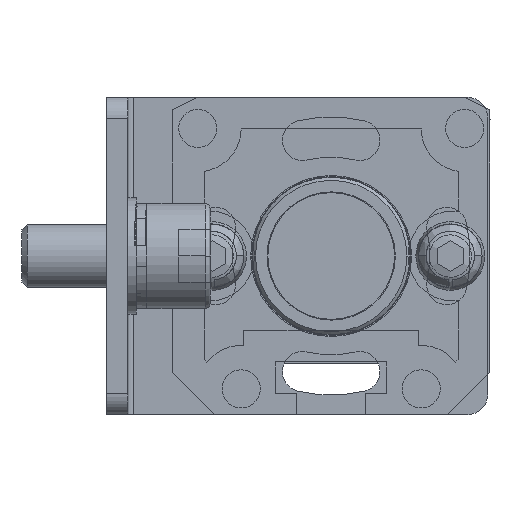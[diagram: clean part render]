
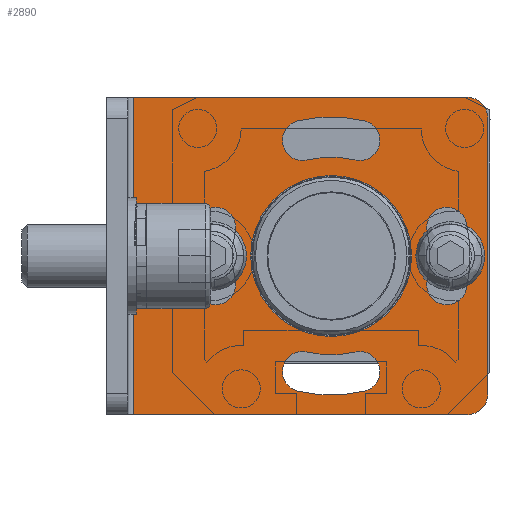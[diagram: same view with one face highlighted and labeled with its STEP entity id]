
A CAD part, front view. The second image highlights one B-rep face of the part: STEP entity #2890.
In plain terms, the highlighted planar face has unit normal (0, -1, 0).
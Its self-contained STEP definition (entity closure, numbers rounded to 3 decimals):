
#692=LINE('',#40684,#1452);
#697=LINE('',#40696,#1457);
#703=LINE('',#40712,#1463);
#707=LINE('',#40736,#1467);
#1452=VECTOR('',#13263,1.);
#1457=VECTOR('',#13272,1.);
#1463=VECTOR('',#13290,1.);
#1467=VECTOR('',#13320,1.);
#1962=PLANE('',#11082);
#2299=FACE_BOUND('',#4309,.T.);
#2300=FACE_BOUND('',#4310,.T.);
#2301=FACE_BOUND('',#4311,.T.);
#2302=FACE_BOUND('',#4312,.T.);
#2303=FACE_BOUND('',#4313,.T.);
#2304=FACE_BOUND('',#4314,.T.);
#2890=ADVANCED_FACE('',(#2299,#2300,#2301,#2302,#2303,#2304),#1962,.T.);
#4309=EDGE_LOOP('',(#6781,#6782,#6783,#6784));
#4310=EDGE_LOOP('',(#6785,#6786,#6787,#6788));
#4311=EDGE_LOOP('',(#6789,#6790,#6791,#6792));
#4312=EDGE_LOOP('',(#6793));
#4313=EDGE_LOOP('',(#6794,#6795,#6796,#6797));
#4314=EDGE_LOOP('',(#6798,#6799,#6800,#6801,#6802,#6803));
#6781=ORIENTED_EDGE('',*,*,#9603,.T.);
#6782=ORIENTED_EDGE('',*,*,#9604,.T.);
#6783=ORIENTED_EDGE('',*,*,#9542,.T.);
#6784=ORIENTED_EDGE('',*,*,#9605,.T.);
#6785=ORIENTED_EDGE('',*,*,#9606,.T.);
#6786=ORIENTED_EDGE('',*,*,#9546,.T.);
#6787=ORIENTED_EDGE('',*,*,#9607,.T.);
#6788=ORIENTED_EDGE('',*,*,#9550,.T.);
#6789=ORIENTED_EDGE('',*,*,#9608,.T.);
#6790=ORIENTED_EDGE('',*,*,#9554,.T.);
#6791=ORIENTED_EDGE('',*,*,#9609,.T.);
#6792=ORIENTED_EDGE('',*,*,#9558,.T.);
#6793=ORIENTED_EDGE('',*,*,#9563,.T.);
#6794=ORIENTED_EDGE('',*,*,#9610,.T.);
#6795=ORIENTED_EDGE('',*,*,#9611,.T.);
#6796=ORIENTED_EDGE('',*,*,#9612,.T.);
#6797=ORIENTED_EDGE('',*,*,#9564,.T.);
#6798=ORIENTED_EDGE('',*,*,#9613,.T.);
#6799=ORIENTED_EDGE('',*,*,#9614,.T.);
#6800=ORIENTED_EDGE('',*,*,#9598,.F.);
#6801=ORIENTED_EDGE('',*,*,#9584,.T.);
#6802=ORIENTED_EDGE('',*,*,#9590,.F.);
#6803=ORIENTED_EDGE('',*,*,#9615,.T.);
#8262=VERTEX_POINT('',#40594);
#8263=VERTEX_POINT('',#40595);
#8266=VERTEX_POINT('',#40603);
#8267=VERTEX_POINT('',#40604);
#8270=VERTEX_POINT('',#40612);
#8271=VERTEX_POINT('',#40613);
#8274=VERTEX_POINT('',#40621);
#8275=VERTEX_POINT('',#40622);
#8278=VERTEX_POINT('',#40630);
#8279=VERTEX_POINT('',#40631);
#8283=VERTEX_POINT('',#40641);
#8284=VERTEX_POINT('',#40644);
#8285=VERTEX_POINT('',#40645);
#8298=VERTEX_POINT('',#40681);
#8299=VERTEX_POINT('',#40683);
#8304=VERTEX_POINT('',#40695);
#8309=VERTEX_POINT('',#40713);
#8312=VERTEX_POINT('',#40723);
#8313=VERTEX_POINT('',#40724);
#8314=VERTEX_POINT('',#40732);
#8315=VERTEX_POINT('',#40734);
#8316=VERTEX_POINT('',#40737);
#8317=VERTEX_POINT('',#40738);
#9542=EDGE_CURVE('',#8262,#8263,#10244,.T.);
#9546=EDGE_CURVE('',#8266,#8267,#10246,.T.);
#9550=EDGE_CURVE('',#8270,#8271,#10248,.T.);
#9554=EDGE_CURVE('',#8274,#8275,#10250,.T.);
#9558=EDGE_CURVE('',#8278,#8279,#10252,.T.);
#9563=EDGE_CURVE('',#8283,#8283,#10255,.T.);
#9564=EDGE_CURVE('',#8284,#8285,#10256,.T.);
#9584=EDGE_CURVE('',#8298,#8299,#692,.T.);
#9590=EDGE_CURVE('',#8304,#8299,#697,.T.);
#9598=EDGE_CURVE('',#8298,#8309,#703,.T.);
#9603=EDGE_CURVE('',#8312,#8313,#10268,.T.);
#9604=EDGE_CURVE('',#8313,#8262,#10269,.T.);
#9605=EDGE_CURVE('',#8263,#8312,#10270,.T.);
#9606=EDGE_CURVE('',#8271,#8266,#10271,.T.);
#9607=EDGE_CURVE('',#8267,#8270,#10272,.T.);
#9608=EDGE_CURVE('',#8279,#8274,#10273,.T.);
#9609=EDGE_CURVE('',#8275,#8278,#10274,.T.);
#9610=EDGE_CURVE('',#8285,#8314,#10275,.T.);
#9611=EDGE_CURVE('',#8314,#8315,#10276,.T.);
#9612=EDGE_CURVE('',#8315,#8284,#10277,.T.);
#9613=EDGE_CURVE('',#8316,#8317,#707,.T.);
#9614=EDGE_CURVE('',#8317,#8309,#10278,.T.);
#9615=EDGE_CURVE('',#8304,#8316,#10279,.T.);
#10244=CIRCLE('',#11028,1.9);
#10246=CIRCLE('',#11031,13.15);
#10248=CIRCLE('',#11034,9.35);
#10250=CIRCLE('',#11037,1.9);
#10252=CIRCLE('',#11040,1.9);
#10255=CIRCLE('',#11044,7.6);
#10256=CIRCLE('',#11046,1.9);
#10268=CIRCLE('',#11070,1.9);
#10269=CIRCLE('',#11071,13.15);
#10270=CIRCLE('',#11072,9.35);
#10271=CIRCLE('',#11073,1.9);
#10272=CIRCLE('',#11074,1.9);
#10273=CIRCLE('',#11075,13.15);
#10274=CIRCLE('',#11076,9.35);
#10275=CIRCLE('',#11077,13.15);
#10276=CIRCLE('',#11078,1.9);
#10277=CIRCLE('',#11079,9.35);
#10278=CIRCLE('',#11080,2.);
#10279=CIRCLE('',#11081,2.);
#11028=AXIS2_PLACEMENT_3D('',#40593,#13179,#13180);
#11031=AXIS2_PLACEMENT_3D('',#40602,#13187,#13188);
#11034=AXIS2_PLACEMENT_3D('',#40611,#13195,#13196);
#11037=AXIS2_PLACEMENT_3D('',#40620,#13203,#13204);
#11040=AXIS2_PLACEMENT_3D('',#40629,#13211,#13212);
#11044=AXIS2_PLACEMENT_3D('',#40640,#13221,#13222);
#11046=AXIS2_PLACEMENT_3D('',#40643,#13225,#13226);
#11070=AXIS2_PLACEMENT_3D('',#40722,#13300,#13301);
#11071=AXIS2_PLACEMENT_3D('',#40725,#13302,#13303);
#11072=AXIS2_PLACEMENT_3D('',#40726,#13304,#13305);
#11073=AXIS2_PLACEMENT_3D('',#40727,#13306,#13307);
#11074=AXIS2_PLACEMENT_3D('',#40728,#13308,#13309);
#11075=AXIS2_PLACEMENT_3D('',#40729,#13310,#13311);
#11076=AXIS2_PLACEMENT_3D('',#40730,#13312,#13313);
#11077=AXIS2_PLACEMENT_3D('',#40731,#13314,#13315);
#11078=AXIS2_PLACEMENT_3D('',#40733,#13316,#13317);
#11079=AXIS2_PLACEMENT_3D('',#40735,#13318,#13319);
#11080=AXIS2_PLACEMENT_3D('',#40739,#13321,#13322);
#11081=AXIS2_PLACEMENT_3D('',#40740,#13323,#13324);
#11082=AXIS2_PLACEMENT_3D('',#40741,#13325,#13326);
#13179=DIRECTION('',(0.,1.,0.));
#13180=DIRECTION('',(0.,0.,1.));
#13187=DIRECTION('',(0.,1.,0.));
#13188=DIRECTION('',(0.,0.,1.));
#13195=DIRECTION('',(0.,-1.,0.));
#13196=DIRECTION('',(0.,0.,1.));
#13203=DIRECTION('',(0.,1.,0.));
#13204=DIRECTION('',(0.,0.,1.));
#13211=DIRECTION('',(0.,1.,0.));
#13212=DIRECTION('',(0.,0.,1.));
#13221=DIRECTION('',(0.,1.,0.));
#13222=DIRECTION('',(0.,0.,1.));
#13225=DIRECTION('',(0.,1.,0.));
#13226=DIRECTION('',(0.,0.,1.));
#13263=DIRECTION('',(0.,0.,-1.));
#13272=DIRECTION('',(-1.,0.,0.));
#13290=DIRECTION('',(1.,0.,0.));
#13300=DIRECTION('',(0.,1.,0.));
#13301=DIRECTION('',(0.,0.,1.));
#13302=DIRECTION('',(0.,1.,0.));
#13303=DIRECTION('',(0.,0.,1.));
#13304=DIRECTION('',(0.,-1.,0.));
#13305=DIRECTION('',(0.,0.,1.));
#13306=DIRECTION('',(0.,1.,0.));
#13307=DIRECTION('',(0.,0.,1.));
#13308=DIRECTION('',(0.,1.,0.));
#13309=DIRECTION('',(0.,0.,1.));
#13310=DIRECTION('',(0.,1.,0.));
#13311=DIRECTION('',(0.,0.,1.));
#13312=DIRECTION('',(0.,-1.,0.));
#13313=DIRECTION('',(0.,0.,1.));
#13314=DIRECTION('',(0.,1.,0.));
#13315=DIRECTION('',(0.,0.,1.));
#13316=DIRECTION('',(0.,1.,0.));
#13317=DIRECTION('',(0.,0.,1.));
#13318=DIRECTION('',(0.,-1.,0.));
#13319=DIRECTION('',(0.,0.,1.));
#13320=DIRECTION('',(0.,0.,1.));
#13321=DIRECTION('',(0.,-1.,0.));
#13322=DIRECTION('',(0.,0.,-1.));
#13323=DIRECTION('',(0.,-1.,0.));
#13324=DIRECTION('',(0.,0.,1.));
#13325=DIRECTION('',(0.,-1.,0.));
#13326=DIRECTION('',(1.,0.,0.));
#40593=CARTESIAN_POINT('',(-110.921,-638.,2.851));
#40594=CARTESIAN_POINT('',(-112.765,-638.,3.307));
#40595=CARTESIAN_POINT('',(-109.077,-638.,2.395));
#40602=CARTESIAN_POINT('',(-100.,-638.,0.15));
#40603=CARTESIAN_POINT('',(-103.157,-638.,12.915));
#40604=CARTESIAN_POINT('',(-96.843,-638.,12.915));
#40611=CARTESIAN_POINT('',(-100.,-638.,0.15));
#40612=CARTESIAN_POINT('',(-97.755,-638.,9.227));
#40613=CARTESIAN_POINT('',(-102.245,-638.,9.227));
#40620=CARTESIAN_POINT('',(-102.701,-638.,-10.771));
#40621=CARTESIAN_POINT('',(-103.157,-638.,-12.615));
#40622=CARTESIAN_POINT('',(-102.245,-638.,-8.927));
#40629=CARTESIAN_POINT('',(-97.299,-638.,-10.771));
#40630=CARTESIAN_POINT('',(-97.755,-638.,-8.927));
#40631=CARTESIAN_POINT('',(-96.843,-638.,-12.615));
#40640=CARTESIAN_POINT('',(-100.,-638.,0.15));
#40641=CARTESIAN_POINT('',(-100.,-638.,7.75));
#40643=CARTESIAN_POINT('',(-89.079,-638.,2.851));
#40644=CARTESIAN_POINT('',(-90.923,-638.,2.395));
#40645=CARTESIAN_POINT('',(-87.235,-638.,3.307));
#40681=CARTESIAN_POINT('',(-118.7,-638.,15.15));
#40683=CARTESIAN_POINT('',(-118.7,-638.,-14.85));
#40684=CARTESIAN_POINT('',(-118.7,-638.,15.15));
#40695=CARTESIAN_POINT('',(-87.2,-638.,-14.85));
#40696=CARTESIAN_POINT('',(-118.7,-638.,-14.85));
#40712=CARTESIAN_POINT('',(-118.7,-638.,15.15));
#40713=CARTESIAN_POINT('',(-87.2,-638.,15.15));
#40722=CARTESIAN_POINT('',(-110.921,-638.,-2.551));
#40723=CARTESIAN_POINT('',(-109.077,-638.,-2.095));
#40724=CARTESIAN_POINT('',(-112.765,-638.,-3.007));
#40725=CARTESIAN_POINT('',(-100.,-638.,0.15));
#40726=CARTESIAN_POINT('',(-100.,-638.,0.15));
#40727=CARTESIAN_POINT('',(-102.701,-638.,11.071));
#40728=CARTESIAN_POINT('',(-97.299,-638.,11.071));
#40729=CARTESIAN_POINT('',(-100.,-638.,0.15));
#40730=CARTESIAN_POINT('',(-100.,-638.,0.15));
#40731=CARTESIAN_POINT('',(-100.,-638.,0.15));
#40732=CARTESIAN_POINT('',(-87.235,-638.,-3.007));
#40733=CARTESIAN_POINT('',(-89.079,-638.,-2.551));
#40734=CARTESIAN_POINT('',(-90.923,-638.,-2.095));
#40735=CARTESIAN_POINT('',(-100.,-638.,0.15));
#40736=CARTESIAN_POINT('',(-85.2,-638.,15.15));
#40737=CARTESIAN_POINT('',(-85.2,-638.,-12.85));
#40738=CARTESIAN_POINT('',(-85.2,-638.,13.15));
#40739=CARTESIAN_POINT('',(-87.2,-638.,13.15));
#40740=CARTESIAN_POINT('',(-87.2,-638.,-12.85));
#40741=CARTESIAN_POINT('',(-85.2,-638.,15.15));
